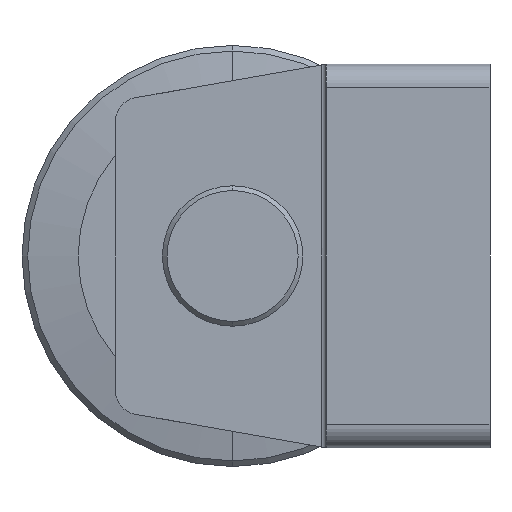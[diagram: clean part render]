
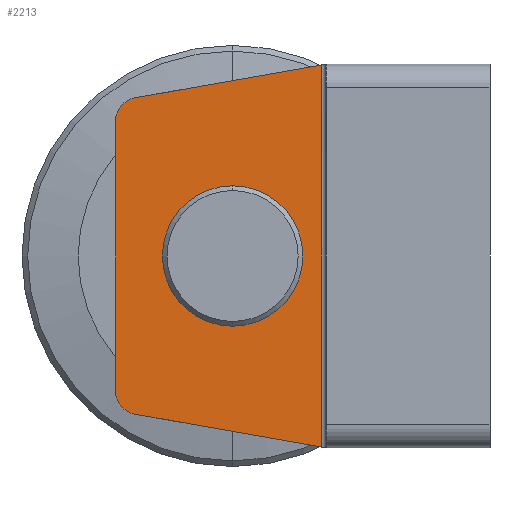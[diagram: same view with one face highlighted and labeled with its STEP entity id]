
A CAD part, left-side view. The second image highlights one B-rep face of the part: STEP entity #2213.
In plain terms, the highlighted planar face has unit normal (-1, 0, 0).
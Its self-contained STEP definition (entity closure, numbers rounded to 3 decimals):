
#21 = DIRECTION ( 'NONE',  ( 0., 0., -1. ) ) ;
#25 = ORIENTED_EDGE ( 'NONE', *, *, #955, .T. ) ;
#32 = DIRECTION ( 'NONE',  ( -1., 0., 0. ) ) ;
#47 = ORIENTED_EDGE ( 'NONE', *, *, #2002, .T. ) ;
#59 = LINE ( 'NONE', #2224, #1519 ) ;
#126 = FACE_BOUND ( 'NONE', #645, .T. ) ;
#132 = AXIS2_PLACEMENT_3D ( 'NONE', #143, #306, #1700 ) ;
#143 = CARTESIAN_POINT ( 'NONE',  ( -35., 75., 28.87 ) ) ;
#172 = CARTESIAN_POINT ( 'NONE',  ( -35., 80., 41. ) ) ;
#209 = LINE ( 'NONE', #1982, #1014 ) ;
#226 = DIRECTION ( 'NONE',  ( 0., 0., -1. ) ) ;
#236 = VERTEX_POINT ( 'NONE', #1914 ) ;
#280 = DIRECTION ( 'NONE',  ( 0., 0., -1. ) ) ;
#306 = DIRECTION ( 'NONE',  ( -1., 0., 0. ) ) ;
#329 = EDGE_CURVE ( 'NONE', #2100, #801, #1510, .T. ) ;
#333 = DIRECTION ( 'NONE',  ( 1., 0., 0. ) ) ;
#351 = CIRCLE ( 'NONE', #1777, 15. ) ;
#357 = CARTESIAN_POINT ( 'NONE',  ( -35., 36., 40.824 ) ) ;
#408 = DIRECTION ( 'NONE',  ( 0., 0., -1. ) ) ;
#475 = ORIENTED_EDGE ( 'NONE', *, *, #2160, .T. ) ;
#513 = DIRECTION ( 'NONE',  ( 0., -0.985, -0.174 ) ) ;
#539 = EDGE_CURVE ( 'NONE', #962, #995, #351, .T. ) ;
#558 = VECTOR ( 'NONE', #21, 1000. ) ;
#645 = EDGE_LOOP ( 'NONE', ( #1872, #1425 ) ) ;
#654 = CARTESIAN_POINT ( 'NONE',  ( -35., 36., -40.824 ) ) ;
#665 = AXIS2_PLACEMENT_3D ( 'NONE', #2287, #333, #408 ) ;
#718 = VERTEX_POINT ( 'NONE', #2076 ) ;
#743 = CIRCLE ( 'NONE', #132, 5. ) ;
#801 = VERTEX_POINT ( 'NONE', #654 ) ;
#853 = CARTESIAN_POINT ( 'NONE',  ( -35., 75.868, 33.794 ) ) ;
#955 = EDGE_CURVE ( 'NONE', #718, #236, #1027, .T. ) ;
#962 = VERTEX_POINT ( 'NONE', #2034 ) ;
#995 = VERTEX_POINT ( 'NONE', #2107 ) ;
#1014 = VECTOR ( 'NONE', #1574, 1000. ) ;
#1027 = LINE ( 'NONE', #172, #1096 ) ;
#1058 = FACE_OUTER_BOUND ( 'NONE', #2299, .T. ) ;
#1096 = VECTOR ( 'NONE', #226, 1000. ) ;
#1104 = CARTESIAN_POINT ( 'NONE',  ( -35., 75.868, -33.794 ) ) ;
#1133 = EDGE_CURVE ( 'NONE', #2100, #1374, #209, .T. ) ;
#1143 = CARTESIAN_POINT ( 'NONE',  ( -35., 36., 41. ) ) ;
#1147 = VERTEX_POINT ( 'NONE', #1104 ) ;
#1186 = DIRECTION ( 'NONE',  ( 1., 0., 0. ) ) ;
#1223 = DIRECTION ( 'NONE',  ( 0., 0., -1. ) ) ;
#1352 = DIRECTION ( 'NONE',  ( 1., 0., 0. ) ) ;
#1358 = CARTESIAN_POINT ( 'NONE',  ( -35., 75., -28.87 ) ) ;
#1374 = VERTEX_POINT ( 'NONE', #853 ) ;
#1389 = AXIS2_PLACEMENT_3D ( 'NONE', #1143, #1186, #1842 ) ;
#1425 = ORIENTED_EDGE ( 'NONE', *, *, #2226, .T. ) ;
#1433 = ORIENTED_EDGE ( 'NONE', *, *, #1455, .T. ) ;
#1455 = EDGE_CURVE ( 'NONE', #1374, #718, #743, .T. ) ;
#1510 = LINE ( 'NONE', #2114, #558 ) ;
#1519 = VECTOR ( 'NONE', #513, 1000. ) ;
#1574 = DIRECTION ( 'NONE',  ( 0., 0.985, -0.174 ) ) ;
#1700 = DIRECTION ( 'NONE',  ( 0., 0., -1. ) ) ;
#1708 = ORIENTED_EDGE ( 'NONE', *, *, #329, .F. ) ;
#1777 = AXIS2_PLACEMENT_3D ( 'NONE', #2279, #1352, #1223 ) ;
#1842 = DIRECTION ( 'NONE',  ( 0., 0., -1. ) ) ;
#1863 = ORIENTED_EDGE ( 'NONE', *, *, #1133, .T. ) ;
#1872 = ORIENTED_EDGE ( 'NONE', *, *, #539, .T. ) ;
#1914 = CARTESIAN_POINT ( 'NONE',  ( -35., 80., -28.87 ) ) ;
#1949 = PLANE ( 'NONE',  #1389 ) ;
#1974 = AXIS2_PLACEMENT_3D ( 'NONE', #1358, #32, #280 ) ;
#1982 = CARTESIAN_POINT ( 'NONE',  ( -35., 35.97, 40.829 ) ) ;
#2002 = EDGE_CURVE ( 'NONE', #1147, #801, #59, .T. ) ;
#2034 = CARTESIAN_POINT ( 'NONE',  ( -35., 55., 15. ) ) ;
#2076 = CARTESIAN_POINT ( 'NONE',  ( -35., 80., 28.87 ) ) ;
#2100 = VERTEX_POINT ( 'NONE', #357 ) ;
#2107 = CARTESIAN_POINT ( 'NONE',  ( -35., 55., -15. ) ) ;
#2114 = CARTESIAN_POINT ( 'NONE',  ( -35., 36., 41. ) ) ;
#2160 = EDGE_CURVE ( 'NONE', #236, #1147, #2393, .T. ) ;
#2213 = ADVANCED_FACE ( 'NONE', ( #126, #1058 ), #1949, .F. ) ;
#2224 = CARTESIAN_POINT ( 'NONE',  ( -35., 49.993, -38.356 ) ) ;
#2226 = EDGE_CURVE ( 'NONE', #995, #962, #2338, .T. ) ;
#2279 = CARTESIAN_POINT ( 'NONE',  ( -35., 55., 0. ) ) ;
#2287 = CARTESIAN_POINT ( 'NONE',  ( -35., 55., 0. ) ) ;
#2299 = EDGE_LOOP ( 'NONE', ( #1863, #1433, #25, #475, #47, #1708 ) ) ;
#2338 = CIRCLE ( 'NONE', #665, 15. ) ;
#2393 = CIRCLE ( 'NONE', #1974, 5. ) ;
